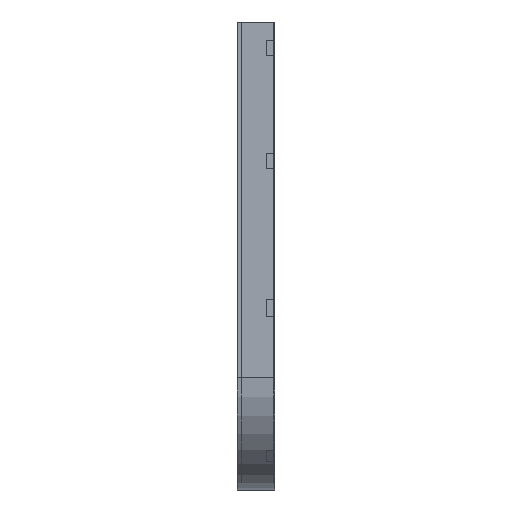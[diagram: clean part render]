
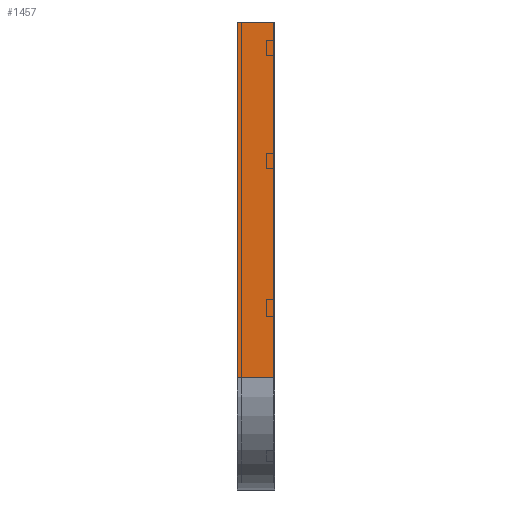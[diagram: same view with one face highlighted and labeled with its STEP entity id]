
A CAD part, left-side view. The second image highlights one B-rep face of the part: STEP entity #1457.
In plain terms, the highlighted planar face has unit normal (-1, 0, 0).
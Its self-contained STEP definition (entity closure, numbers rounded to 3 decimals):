
#11 = FACE_OUTER_BOUND ( 'NONE', #308, .T. ) ;
#145 = CARTESIAN_POINT ( 'NONE',  ( 0., 0., -950. ) ) ;
#169 = VECTOR ( 'NONE', #379, 1000. ) ;
#211 = CARTESIAN_POINT ( 'NONE',  ( 0., 0., 0. ) ) ;
#218 = CARTESIAN_POINT ( 'NONE',  ( 0., 0., 0. ) ) ;
#227 = EDGE_CURVE ( 'NONE', #1402, #836, #660, .T. ) ;
#231 = LINE ( 'NONE', #218, #573 ) ;
#308 = EDGE_LOOP ( 'NONE', ( #750, #1651, #1077, #881 ) ) ;
#309 = CARTESIAN_POINT ( 'NONE',  ( 0., 100., -950. ) ) ;
#379 = DIRECTION ( 'NONE',  ( 0., -1., 0. ) ) ;
#413 = LINE ( 'NONE', #1971, #928 ) ;
#480 = CARTESIAN_POINT ( 'NONE',  ( 0., 100., 0. ) ) ;
#485 = DIRECTION ( 'NONE',  ( 0., -1., 0. ) ) ;
#573 = VECTOR ( 'NONE', #2124, 1000. ) ;
#651 = CARTESIAN_POINT ( 'NONE',  ( 0., 0., 0. ) ) ;
#660 = LINE ( 'NONE', #145, #169 ) ;
#732 = EDGE_CURVE ( 'NONE', #1400, #1402, #413, .T. ) ;
#750 = ORIENTED_EDGE ( 'NONE', *, *, #813, .F. ) ;
#813 = EDGE_CURVE ( 'NONE', #1844, #836, #231, .T. ) ;
#819 = LINE ( 'NONE', #651, #1308 ) ;
#836 = VERTEX_POINT ( 'NONE', #1616 ) ;
#881 = ORIENTED_EDGE ( 'NONE', *, *, #227, .T. ) ;
#928 = VECTOR ( 'NONE', #1465, 1000. ) ;
#1077 = ORIENTED_EDGE ( 'NONE', *, *, #732, .T. ) ;
#1308 = VECTOR ( 'NONE', #485, 1000. ) ;
#1347 = DIRECTION ( 'NONE',  ( 1., 0., 0. ) ) ;
#1400 = VERTEX_POINT ( 'NONE', #480 ) ;
#1402 = VERTEX_POINT ( 'NONE', #309 ) ;
#1453 = AXIS2_PLACEMENT_3D ( 'NONE', #211, #1347, #1596 ) ;
#1457 = ADVANCED_FACE ( 'NONE', ( #11 ), #1777, .F. ) ;
#1465 = DIRECTION ( 'NONE',  ( 0., 0., -1. ) ) ;
#1553 = CARTESIAN_POINT ( 'NONE',  ( 0., 0., 0. ) ) ;
#1596 = DIRECTION ( 'NONE',  ( 0., 0., -1. ) ) ;
#1616 = CARTESIAN_POINT ( 'NONE',  ( 0., 0., -950. ) ) ;
#1651 = ORIENTED_EDGE ( 'NONE', *, *, #1760, .F. ) ;
#1760 = EDGE_CURVE ( 'NONE', #1400, #1844, #819, .T. ) ;
#1777 = PLANE ( 'NONE',  #1453 ) ;
#1844 = VERTEX_POINT ( 'NONE', #1553 ) ;
#1971 = CARTESIAN_POINT ( 'NONE',  ( 0., 100., 0. ) ) ;
#2124 = DIRECTION ( 'NONE',  ( 0., 0., -1. ) ) ;
